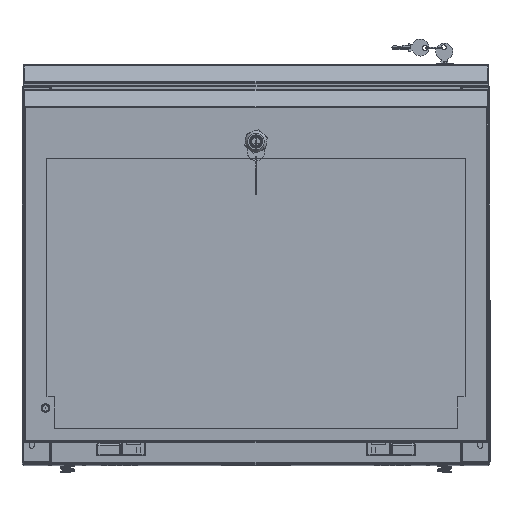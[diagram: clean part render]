
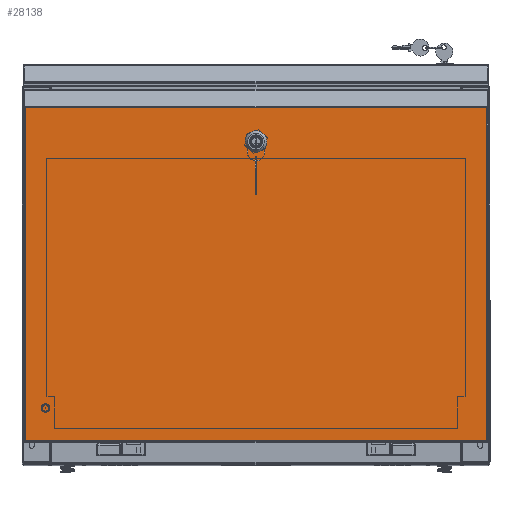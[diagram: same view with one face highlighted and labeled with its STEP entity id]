
A CAD part, top view. The second image highlights one B-rep face of the part: STEP entity #28138.
In plain terms, the highlighted planar face has unit normal (0, 0, 1).
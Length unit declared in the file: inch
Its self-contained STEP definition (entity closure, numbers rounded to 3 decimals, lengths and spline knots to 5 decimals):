
#935=FACE_BOUND('',#5548,.T.);
#1927=CIRCLE('',#30995,0.443);
#1929=CIRCLE('',#30999,0.443);
#1931=CIRCLE('',#31003,0.443);
#1933=CIRCLE('',#31007,0.443);
#3765=FACE_OUTER_BOUND('',#5547,.T.);
#5547=EDGE_LOOP('',(#24307,#24308,#24309,#24310));
#5548=EDGE_LOOP('',(#24311,#24312,#24313,#24314,#24315,#24316,#24317,#24318));
#8001=LINE('',#48555,#10767);
#8005=LINE('',#48567,#10771);
#8009=LINE('',#48579,#10775);
#8013=LINE('',#48591,#10779);
#8123=LINE('',#49194,#10889);
#8124=LINE('',#49203,#10890);
#8125=LINE('',#49205,#10891);
#8126=LINE('',#49206,#10892);
#10767=VECTOR('',#37431,0.3937);
#10771=VECTOR('',#37443,0.3937);
#10775=VECTOR('',#37455,0.3937);
#10779=VECTOR('',#37467,0.3937);
#10889=VECTOR('',#37821,0.3937);
#10890=VECTOR('',#37824,0.3937);
#10891=VECTOR('',#37825,0.3937);
#10892=VECTOR('',#37826,0.3937);
#13451=VERTEX_POINT('',#48552);
#13452=VERTEX_POINT('',#48554);
#13454=VERTEX_POINT('',#48560);
#13456=VERTEX_POINT('',#48566);
#13458=VERTEX_POINT('',#48572);
#13460=VERTEX_POINT('',#48578);
#13462=VERTEX_POINT('',#48584);
#13464=VERTEX_POINT('',#48590);
#13580=VERTEX_POINT('',#49048);
#13586=VERTEX_POINT('',#49193);
#13587=VERTEX_POINT('',#49202);
#13588=VERTEX_POINT('',#49204);
#17067=EDGE_CURVE('',#13452,#13451,#8001,.T.);
#17070=EDGE_CURVE('',#13454,#13452,#1927,.T.);
#17073=EDGE_CURVE('',#13456,#13454,#8005,.T.);
#17076=EDGE_CURVE('',#13458,#13456,#1929,.T.);
#17079=EDGE_CURVE('',#13460,#13458,#8009,.T.);
#17082=EDGE_CURVE('',#13462,#13460,#1931,.T.);
#17085=EDGE_CURVE('',#13464,#13462,#8013,.T.);
#17088=EDGE_CURVE('',#13451,#13464,#1933,.T.);
#17268=EDGE_CURVE('',#13586,#13580,#8123,.T.);
#17270=EDGE_CURVE('',#13580,#13587,#8124,.T.);
#17271=EDGE_CURVE('',#13587,#13588,#8125,.T.);
#17272=EDGE_CURVE('',#13586,#13588,#8126,.T.);
#24307=ORIENTED_EDGE('',*,*,#17270,.T.);
#24308=ORIENTED_EDGE('',*,*,#17271,.T.);
#24309=ORIENTED_EDGE('',*,*,#17272,.F.);
#24310=ORIENTED_EDGE('',*,*,#17268,.T.);
#24311=ORIENTED_EDGE('',*,*,#17067,.T.);
#24312=ORIENTED_EDGE('',*,*,#17088,.T.);
#24313=ORIENTED_EDGE('',*,*,#17085,.T.);
#24314=ORIENTED_EDGE('',*,*,#17082,.T.);
#24315=ORIENTED_EDGE('',*,*,#17079,.T.);
#24316=ORIENTED_EDGE('',*,*,#17076,.T.);
#24317=ORIENTED_EDGE('',*,*,#17073,.T.);
#24318=ORIENTED_EDGE('',*,*,#17070,.T.);
#26816=PLANE('',#31127);
#28138=ADVANCED_FACE('',(#3765,#935),#26816,.T.);
#30995=AXIS2_PLACEMENT_3D('',#48561,#37437,#37438);
#30999=AXIS2_PLACEMENT_3D('',#48573,#37449,#37450);
#31003=AXIS2_PLACEMENT_3D('',#48585,#37461,#37462);
#31007=AXIS2_PLACEMENT_3D('',#48595,#37473,#37474);
#31127=AXIS2_PLACEMENT_3D('',#49201,#37822,#37823);
#37431=DIRECTION('',(1.,0.,0.));
#37437=DIRECTION('center_axis',(0.,0.,-1.));
#37438=DIRECTION('ref_axis',(0.45,-0.893,0.));
#37443=DIRECTION('',(0.,1.,0.));
#37449=DIRECTION('center_axis',(0.,0.,-1.));
#37450=DIRECTION('ref_axis',(0.893,0.45,0.));
#37455=DIRECTION('',(-1.,0.,0.));
#37461=DIRECTION('center_axis',(0.,0.,-1.));
#37462=DIRECTION('ref_axis',(-0.45,0.893,0.));
#37467=DIRECTION('',(0.,-1.,0.));
#37473=DIRECTION('center_axis',(0.,0.,-1.));
#37474=DIRECTION('ref_axis',(-0.893,-0.45,0.));
#37821=DIRECTION('',(0.,-1.,0.));
#37822=DIRECTION('center_axis',(0.,0.,1.));
#37823=DIRECTION('ref_axis',(1.,0.,0.));
#37824=DIRECTION('',(1.,0.,0.));
#37825=DIRECTION('',(0.,1.,0.));
#37826=DIRECTION('',(1.,0.,0.));
#48552=CARTESIAN_POINT('',(1.98157,-16.51809,0.047));
#48554=CARTESIAN_POINT('',(1.58243,-16.51809,0.047));
#48555=CARTESIAN_POINT('',(5.29079,-16.51809,0.047));
#48560=CARTESIAN_POINT('',(1.3865,-16.71402,0.047));
#48561=CARTESIAN_POINT('Origin',(1.782,-16.91359,0.047));
#48566=CARTESIAN_POINT('',(1.3865,-17.11317,0.047));
#48567=CARTESIAN_POINT('',(1.3865,-16.81381,0.047));
#48572=CARTESIAN_POINT('',(1.58243,-17.30909,0.047));
#48573=CARTESIAN_POINT('Origin',(1.782,-16.91359,0.047));
#48578=CARTESIAN_POINT('',(1.98157,-17.30909,0.047));
#48579=CARTESIAN_POINT('',(5.09121,-17.30909,0.047));
#48584=CARTESIAN_POINT('',(2.1775,-17.11317,0.047));
#48585=CARTESIAN_POINT('Origin',(1.782,-16.91359,0.047));
#48590=CARTESIAN_POINT('',(2.1775,-16.71402,0.047));
#48591=CARTESIAN_POINT('',(2.1775,-17.01338,0.047));
#48595=CARTESIAN_POINT('Origin',(1.782,-16.91359,0.047));
#49048=CARTESIAN_POINT('',(0.03189,-28.75959,0.047));
#49193=CARTESIAN_POINT('',(0.03189,-5.06759,0.047));
#49194=CARTESIAN_POINT('',(0.03189,-22.87509,0.047));
#49201=CARTESIAN_POINT('Origin',(8.6,-16.91359,0.047));
#49202=CARTESIAN_POINT('',(17.123,-28.75959,0.047));
#49203=CARTESIAN_POINT('',(12.4235,-28.75959,0.047));
#49204=CARTESIAN_POINT('',(17.123,-5.06759,0.047));
#49205=CARTESIAN_POINT('',(17.123,-10.95209,0.047));
#49206=CARTESIAN_POINT('',(0.98489,-5.06759,0.047));
